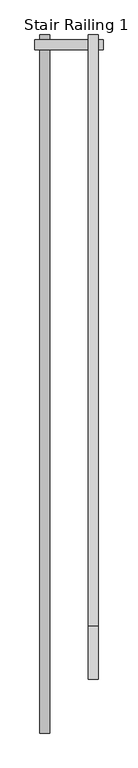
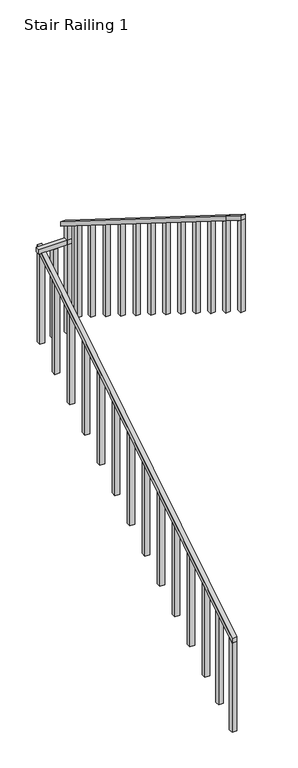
"""IFC4 building model written with IfcOpenShell, lengths in millimetres: railing geometry, Stair Railing 1."""

from ifc_helpers import new_model, si_unit, frame, origin, place, context, project, spatial, polyline, outline, extrude, source, transform, mapped, element, save


def stair_railing_1_b6fe675f(model_context):
    return source(origin(), model_context, "Body", "SweptSolid", [
        extrude(outline(polyline([(42823.1018942, 9002.8888889), (42823.1018942, 8952.0888889), (39190.9018942, 6677.3777778), (39190.9018942, 6728.1777778), (42823.1018942, 9002.8888889)])), frame((-114054.173517, 0.0, 0.0), z_axis=(1.0, 0.0, 0.0), x_axis=(0.0, 1.0, 0.0)), (0.0, 0.0, 1.0), 50.8),
        extrude(outline(polyline([(39241.7018942, 6709.1919192), (39241.7018942, 5661.3777778), (39190.9018942, 5661.3777778), (39190.9018942, 6677.3777778), (39241.7018942, 6709.1919192)])), frame((-114054.173517, 0.0, 0.0), z_axis=(1.0, 0.0, 0.0), x_axis=(0.0, 1.0, 0.0)), (0.0, 0.0, 1.0), 50.8),
        extrude(outline(polyline([(39495.7018942, 6868.2626263), (39495.7018942, 5820.4484848), (39444.9018942, 5820.4484848), (39444.9018942, 6836.4484848), (39495.7018942, 6868.2626263)])), frame((-114054.173517, 0.0, 0.0), z_axis=(1.0, 0.0, 0.0), x_axis=(0.0, 1.0, 0.0)), (0.0, 0.0, 1.0), 50.8),
        extrude(outline(polyline([(39749.7018942, 7027.3333333), (39749.7018942, 5979.5191919), (39698.9018942, 5979.5191919), (39698.9018942, 6995.5191919), (39749.7018942, 7027.3333333)])), frame((-114054.173517, 0.0, 0.0), z_axis=(1.0, 0.0, 0.0), x_axis=(0.0, 1.0, 0.0)), (0.0, 0.0, 1.0), 50.8),
        extrude(outline(polyline([(40029.1018942, 7202.3111111), (40029.1018942, 6154.4969697), (39978.3018942, 6154.4969697), (39978.3018942, 7170.4969697), (40029.1018942, 7202.3111111)])), frame((-114054.173517, 0.0, 0.0), z_axis=(1.0, 0.0, 0.0), x_axis=(0.0, 1.0, 0.0)), (0.0, 0.0, 1.0), 50.8),
        extrude(outline(polyline([(40308.5018942, 7377.2888889), (40308.5018942, 6329.4747475), (40257.7018942, 6329.4747475), (40257.7018942, 7345.4747475), (40308.5018942, 7377.2888889)])), frame((-114054.173517, 0.0, 0.0), z_axis=(1.0, 0.0, 0.0), x_axis=(0.0, 1.0, 0.0)), (0.0, 0.0, 1.0), 50.8),
        extrude(outline(polyline([(40587.9018942, 7552.2666667), (40587.9018942, 6504.4525253), (40537.1018942, 6504.4525253), (40537.1018942, 7520.4525253), (40587.9018942, 7552.2666667)])), frame((-114054.173517, 0.0, 0.0), z_axis=(1.0, 0.0, 0.0), x_axis=(0.0, 1.0, 0.0)), (0.0, 0.0, 1.0), 50.8),
        extrude(outline(polyline([(40867.3018942, 7727.2444444), (40867.3018942, 6679.430303), (40816.5018942, 6679.430303), (40816.5018942, 7695.430303), (40867.3018942, 7727.2444444)])), frame((-114054.173517, 0.0, 0.0), z_axis=(1.0, 0.0, 0.0), x_axis=(0.0, 1.0, 0.0)), (0.0, 0.0, 1.0), 50.8),
        extrude(outline(polyline([(41146.7018942, 7902.2222222), (41146.7018942, 6854.4080808), (41095.9018942, 6854.4080808), (41095.9018942, 7870.4080808), (41146.7018942, 7902.2222222)])), frame((-114054.173517, 0.0, 0.0), z_axis=(1.0, 0.0, 0.0), x_axis=(0.0, 1.0, 0.0)), (0.0, 0.0, 1.0), 50.8),
        extrude(outline(polyline([(41426.1018942, 8077.2), (41426.1018942, 7029.3858586), (41375.3018942, 7029.3858586), (41375.3018942, 8045.3858586), (41426.1018942, 8077.2)])), frame((-114054.173517, 0.0, 0.0), z_axis=(1.0, 0.0, 0.0), x_axis=(0.0, 1.0, 0.0)), (0.0, 0.0, 1.0), 50.8),
        extrude(outline(polyline([(41705.5018942, 8252.1777778), (41705.5018942, 7204.3636364), (41654.7018942, 7204.3636364), (41654.7018942, 8220.3636364), (41705.5018942, 8252.1777778)])), frame((-114054.173517, 0.0, 0.0), z_axis=(1.0, 0.0, 0.0), x_axis=(0.0, 1.0, 0.0)), (0.0, 0.0, 1.0), 50.8),
        extrude(outline(polyline([(41984.9018942, 8427.1555556), (41984.9018942, 7379.3414141), (41934.1018942, 7379.3414141), (41934.1018942, 8395.3414141), (41984.9018942, 8427.1555556)])), frame((-114054.173517, 0.0, 0.0), z_axis=(1.0, 0.0, 0.0), x_axis=(0.0, 1.0, 0.0)), (0.0, 0.0, 1.0), 50.8),
        extrude(outline(polyline([(42264.3018942, 8602.1333333), (42264.3018942, 7554.3191919), (42213.5018942, 7554.3191919), (42213.5018942, 8570.3191919), (42264.3018942, 8602.1333333)])), frame((-114054.173517, 0.0, 0.0), z_axis=(1.0, 0.0, 0.0), x_axis=(0.0, 1.0, 0.0)), (0.0, 0.0, 1.0), 50.8),
        extrude(outline(polyline([(42543.7018942, 8777.1111111), (42543.7018942, 7729.2969697), (42492.9018942, 7729.2969697), (42492.9018942, 8745.2969697), (42543.7018942, 8777.1111111)])), frame((-114054.173517, 0.0, 0.0), z_axis=(1.0, 0.0, 0.0), x_axis=(0.0, 1.0, 0.0)), (0.0, 0.0, 1.0), 50.8),
        extrude(outline(polyline([(42823.1018942, 8952.0888889), (42823.1018942, 7904.2747475), (42772.3018942, 7904.2747475), (42772.3018942, 8920.2747475), (42823.1018942, 8952.0888889)])), frame((-114054.173517, 0.0, 0.0), z_axis=(1.0, 0.0, 0.0), x_axis=(0.0, 1.0, 0.0)), (0.0, 0.0, 1.0), 50.8),
        extrude(outline(polyline([(-113725.0492148, 42797.7018942), (-113725.0492148, 42746.9018942), (-114079.573517, 42746.9018942), (-114079.573517, 42797.7018942), (-113725.0492148, 42797.7018942)])), frame((0.0, 0.0, 8952.0888889), z_axis=(0.0, 0.0, 1.0), x_axis=(1.0, 0.0, 0.0)), (0.0, 0.0, 1.0), 50.8),
        extrude(outline(polyline([(-113927.7113659, 42797.7018942), (-113876.9113659, 42797.7018942), (-113876.9113659, 42746.9018942), (-113927.7113659, 42746.9018942), (-113927.7113659, 42797.7018942)])), frame((0.0, 0.0, 7936.0888889), z_axis=(0.0, 0.0, 1.0), x_axis=(1.0, 0.0, 0.0)), (0.0, 0.0, 1.0), 1016.0),
        extrude(outline(polyline([(-113775.8492148, 42797.7018942), (-113725.0492148, 42797.7018942), (-113725.0492148, 42746.9018942), (-113775.8492148, 42746.9018942), (-113775.8492148, 42797.7018942)])), frame((0.0, 0.0, 7936.0888889), z_axis=(0.0, 0.0, 1.0), x_axis=(1.0, 0.0, 0.0)), (0.0, 0.0, 1.0), 1241.7777778),
        extrude(outline(polyline([(39749.7018942, 11051.8222222), (39749.7018942, 11102.6222222), (42823.1018942, 9177.8666667), (42823.1018942, 9127.0666667), (39749.7018942, 11051.8222222)])), frame((-113801.2492148, 0.0, 0.0), z_axis=(1.0, 0.0, 0.0), x_axis=(0.0, 1.0, 0.0)), (0.0, 0.0, 1.0), 50.8),
        extrude(outline(polyline([(42569.1018942, 9286.1373737), (42569.1018942, 8270.1373737), (42518.3018942, 8270.1373737), (42518.3018942, 9317.9515152), (42569.1018942, 9286.1373737)])), frame((-113801.2492148, 0.0, 0.0), z_axis=(1.0, 0.0, 0.0), x_axis=(0.0, 1.0, 0.0)), (0.0, 0.0, 1.0), 50.8),
        extrude(outline(polyline([(42315.1018942, 9445.2080808), (42315.1018942, 8429.2080808), (42264.3018942, 8429.2080808), (42264.3018942, 9477.0222222), (42315.1018942, 9445.2080808)])), frame((-113801.2492148, 0.0, 0.0), z_axis=(1.0, 0.0, 0.0), x_axis=(0.0, 1.0, 0.0)), (0.0, 0.0, 1.0), 50.8),
        extrude(outline(polyline([(42035.7018942, 9620.1858586), (42035.7018942, 8604.1858586), (41984.9018942, 8604.1858586), (41984.9018942, 9652.0), (42035.7018942, 9620.1858586)])), frame((-113801.2492148, 0.0, 0.0), z_axis=(1.0, 0.0, 0.0), x_axis=(0.0, 1.0, 0.0)), (0.0, 0.0, 1.0), 50.8),
        extrude(outline(polyline([(41756.3018942, 9795.1636364), (41756.3018942, 8779.1636364), (41705.5018942, 8779.1636364), (41705.5018942, 9826.9777778), (41756.3018942, 9795.1636364)])), frame((-113801.2492148, 0.0, 0.0), z_axis=(1.0, 0.0, 0.0), x_axis=(0.0, 1.0, 0.0)), (0.0, 0.0, 1.0), 50.8),
        extrude(outline(polyline([(41476.9018942, 9970.1414141), (41476.9018942, 8954.1414141), (41426.1018942, 8954.1414141), (41426.1018942, 10001.9555556), (41476.9018942, 9970.1414141)])), frame((-113801.2492148, 0.0, 0.0), z_axis=(1.0, 0.0, 0.0), x_axis=(0.0, 1.0, 0.0)), (0.0, 0.0, 1.0), 50.8),
        extrude(outline(polyline([(41197.5018942, 10145.1191919), (41197.5018942, 9129.1191919), (41146.7018942, 9129.1191919), (41146.7018942, 10176.9333333), (41197.5018942, 10145.1191919)])), frame((-113801.2492148, 0.0, 0.0), z_axis=(1.0, 0.0, 0.0), x_axis=(0.0, 1.0, 0.0)), (0.0, 0.0, 1.0), 50.8),
        extrude(outline(polyline([(40918.1018942, 10320.0969697), (40918.1018942, 9304.0969697), (40867.3018942, 9304.0969697), (40867.3018942, 10351.9111111), (40918.1018942, 10320.0969697)])), frame((-113801.2492148, 0.0, 0.0), z_axis=(1.0, 0.0, 0.0), x_axis=(0.0, 1.0, 0.0)), (0.0, 0.0, 1.0), 50.8),
        extrude(outline(polyline([(40638.7018942, 10495.0747475), (40638.7018942, 9479.0747475), (40587.9018942, 9479.0747475), (40587.9018942, 10526.8888889), (40638.7018942, 10495.0747475)])), frame((-113801.2492148, 0.0, 0.0), z_axis=(1.0, 0.0, 0.0), x_axis=(0.0, 1.0, 0.0)), (0.0, 0.0, 1.0), 50.8),
        extrude(outline(polyline([(40359.3018942, 10670.0525253), (40359.3018942, 9654.0525253), (40308.5018942, 9654.0525253), (40308.5018942, 10701.8666667), (40359.3018942, 10670.0525253)])), frame((-113801.2492148, 0.0, 0.0), z_axis=(1.0, 0.0, 0.0), x_axis=(0.0, 1.0, 0.0)), (0.0, 0.0, 1.0), 50.8),
        extrude(outline(polyline([(40079.9018942, 10845.030303), (40079.9018942, 9829.030303), (40029.1018942, 9829.030303), (40029.1018942, 10876.8444444), (40079.9018942, 10845.030303)])), frame((-113801.2492148, 0.0, 0.0), z_axis=(1.0, 0.0, 0.0), x_axis=(0.0, 1.0, 0.0)), (0.0, 0.0, 1.0), 50.8),
        extrude(outline(polyline([(39800.5018942, 11020.0080808), (39800.5018942, 10004.0080808), (39749.7018942, 10004.0080808), (39749.7018942, 11051.8222222), (39800.5018942, 11020.0080808)])), frame((-113801.2492148, 0.0, 0.0), z_axis=(1.0, 0.0, 0.0), x_axis=(0.0, 1.0, 0.0)), (0.0, 0.0, 1.0), 50.8),
        extrude(outline(polyline([(39470.3018942, 11226.8), (39470.3018942, 11277.6), (39749.7018942, 11102.6222222), (39749.7018942, 11051.8222222), (39470.3018942, 11226.8)])), frame((-113801.2492148, 0.0, 0.0), z_axis=(1.0, 0.0, 0.0), x_axis=(0.0, 1.0, 0.0)), (0.0, 0.0, 1.0), 50.8),
        extrude(outline(polyline([(39521.1018942, 11194.9858586), (39521.1018942, 10178.9858586), (39470.3018942, 10178.9858586), (39470.3018942, 11226.8), (39521.1018942, 11194.9858586)])), frame((-113801.2492148, 0.0, 0.0), z_axis=(1.0, 0.0, 0.0), x_axis=(0.0, 1.0, 0.0)), (0.0, 0.0, 1.0), 50.8),
    ])


if __name__ == "__main__":
    model = new_model("IFC4")
    model_context = context("Model", 3, world=origin())
    ifc_project = project(units=[si_unit("LENGTHUNIT", "METRE", prefix="MILLI")], contexts=[model_context])
    site = spatial("IfcSite", under=ifc_project)
    building = spatial("IfcBuilding", under=site)
    placement = place(None, origin())
    stair_railing_1_shape = stair_railing_1_b6fe675f(model_context)
    element("IfcRailing", 1, ObjectType="Stair Railing 1", at=placement, inside=building, context=model_context, shape_type="MappedRepresentation", body=[
        mapped(stair_railing_1_shape, transform((0.0, 0.0, 0.0), x_axis=(1.0, 0.0, 0.0), y_axis=(0.0, 1.0, 0.0), z_axis=(0.0, 0.0, 1.0))),
    ])
    save(model, "model.ifc")
